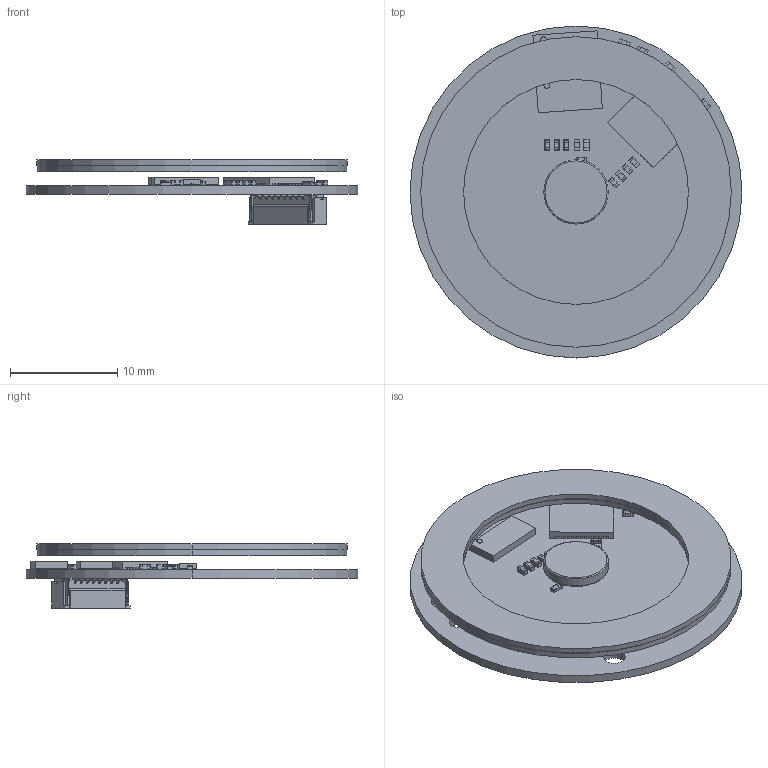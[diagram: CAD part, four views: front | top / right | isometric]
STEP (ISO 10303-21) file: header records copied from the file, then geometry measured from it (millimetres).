
FILE_DESCRIPTION((''),'2;1');
FILE_NAME('EAS-J034ZM-HD_ASM','2026-09-02T',('guxinfeng'),(''),'PRO/ENGINEER BY PARAMETRIC TECHNOLOGY CORPORATION, 2012480','PRO/ENGINEER BY PARAMETRIC TECHNOLOGY CORPORATION, 2012480','');
FILE_SCHEMA(('CONFIG_CONTROL_DESIGN'));
Products named in the file (103): OPEN_CASCADE_STEP_TRANSLATO-150; BOARD_ASM; QFN-052_RGB8421504; U4_ASM; BBE_0_75MM; U2_ASM; U3_ASM; MID_BODY-23371; OPEN_CASCADE_STEP_TRANSLA-23557; TERMINAL-23547_ASM; MARK-23869; 6160444384_ASM; R9_ASM; MID_BODY-24096; OPEN_CASCADE_STEP_TRANSLA-24282; TERMINAL-24272_ASM; MARK-24594; 6202363760_ASM; R8_ASM; MID_BODY-24821; OPEN_CASCADE_STEP_TRANSLA-25007; TERMINAL-24997_ASM; MARK-25319; 6197504048_ASM; R5_ASM; MID_BODY-25546; OPEN_CASCADE_STEP_TRANSLA-25732; TERMINAL-25722_ASM; MARK-26044; 6366771216_ASM; R4_ASM; OPEN_CASCADE_STEP_TRANSLA-26284; OPEN_CASCADE_STEP_TRANSLA-26757; TERMINAL-26270_ASM; OPEN_CASCADE_STEP_TRANSLA-27253; MID_BODY-27243_ASM; 6197507488_ASM; C6_ASM; PLASTIC; OPEN_CASCADE_STEP_TRANSLA-27816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
Assembly tree (121 placements, depth 6):
  EAS-J034ZM-HD_ASM
    PCB_ASM
      BOARD_ASM
        OPEN_CASCADE_STEP_TRANSLATO-150
      U4_ASM
        QFN-052_RGB8421504
      U2_ASM
        BBE_0_75MM
      U3_ASM
        BBE_0_75MM
      R9_ASM
        6160444384_ASM
          MID_BODY-23371
          TERMINAL-23547_ASM  x2
            OPEN_CASCADE_STEP_TRANSLA-23557
          MARK-23869
      R8_ASM
        6202363760_ASM
          MID_BODY-24096
          TERMINAL-24272_ASM  x2
            OPEN_CASCADE_STEP_TRANSLA-24282
          MARK-24594
      R5_ASM
        6197504048_ASM
          MID_BODY-24821
          TERMINAL-24997_ASM  x2
            OPEN_CASCADE_STEP_TRANSLA-25007
          MARK-25319
      R4_ASM
        6366771216_ASM
          MID_BODY-25546
          TERMINAL-25722_ASM  x2
            OPEN_CASCADE_STEP_TRANSLA-25732
          MARK-26044
      C6_ASM
        6197507488_ASM
          TERMINAL-26270_ASM
            OPEN_CASCADE_STEP_TRANSLA-26284
            OPEN_CASCADE_STEP_TRANSLA-26757
          MID_BODY-27243_ASM
            OPEN_CASCADE_STEP_TRANSLA-27253
      U1_ASM
        DFN16X16-4L_1128-4_RGB8421504_ASM
          PLASTIC
          HANPAN_ASM
            OPEN_CASCADE_STEP_TRANSLA-27816
            OPEN_CASCADE_STEP_TRANSLA-28055
            OPEN_CASCADE_STEP_TRANSLA-28294
            OPEN_CASCADE_STEP_TRANSLA-28533
      P1_ASM
        HC-0_8-8PLT_RGB8421504
      C5_ASM
        6160430784_ASM
          TERMINAL-56279_ASM
            OPEN_CASCADE_STEP_TRANSLA-56293
            OPEN_CASCADE_STEP_TRANSLA-56766
          MID_BODY-57252_ASM
            OPEN_CASCADE_STEP_TRANSLA-57262
      C4_ASM
        6160439024_ASM
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Bounding box: 31 x 31 x 5.98 mm (x, y, z)
Volume: 1041.4 mm3; surface area: 3577.6 mm2
Topology: 87 solids, 89 shells, 2436 faces, 6679 edges, 4276 vertices
Faces by surface type: plane 1825, cylinder 515, sphere 88, cone 4, torus 4
Entity records: 79562 total; most frequent: CARTESIAN_POINT 11314, ORIENTED_EDGE 10668, DIRECTION 10358, EDGE_CURVE 5334, PRESENTATION_STYLE_ASSIGNMENT 5323, STYLED_ITEM 5317, CURVE_STYLE 5229, VECTOR 4530
